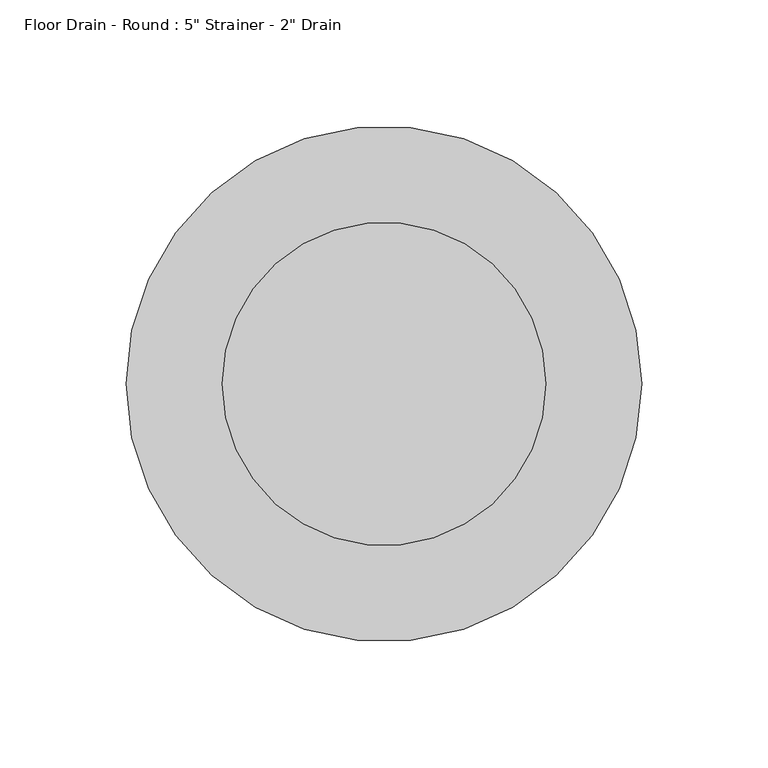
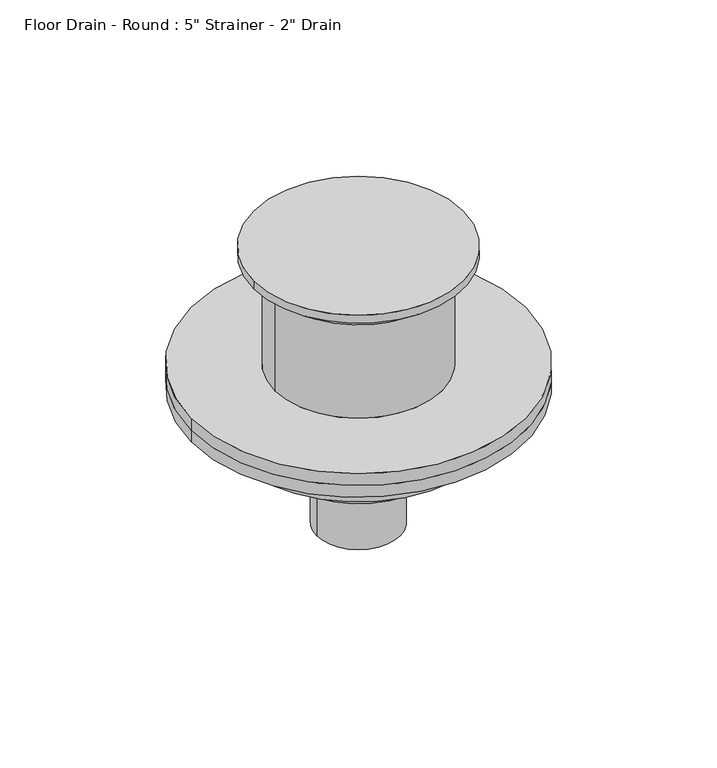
"""IFC4 building model written with IfcOpenShell, lengths in millimetres: flow terminal geometry."""

from ifc_helpers import new_model, si_unit, frame, origin, place, context, project, spatial, polyline, circle_curve, source, transform, mapped, element, save
from ifc_brep_helpers import plane_surface, cylinder_surface, revolved_surface, advanced_brep


def flow_terminal_214ebf25(model_context):
    return source(origin(), model_context, "Body", "AdvancedBrep", [
        advanced_brep(
        [(102.0, 0.0, -75.38), (-102.0, 0.0, -75.38), (-51.0, 0.0, -75.38), (51.0, 0.0, -75.38), (102.0, 0.0, -83.0), (-102.0, 0.0, -83.0), (51.0, 0.0, -15.24), (-51.0, 0.0, -15.24), (-64.0, 0.0, -5.08), (64.0, 0.0, -5.08), (64.0, 0.0, 0.0), (-64.0, 0.0, 0.0)],
        [
            (0, 1, circle_curve(frame((0.0, 0.0, -75.38), z_axis=(0.0, 0.0, 1.0), x_axis=(-1.0, 0.0, 0.0)), 102.0)),
            (1, 0, circle_curve(frame((0.0, 0.0, -75.38), z_axis=(0.0, 0.0, 1.0), x_axis=(-1.0, 0.0, 0.0)), 102.0)),
            (2, 3, circle_curve(frame((0.0, 0.0, -75.38), z_axis=(0.0, 0.0, -1.0), x_axis=(-1.0, 0.0, 0.0)), 51.0)),
            (3, 2, circle_curve(frame((0.0, 0.0, -75.38), z_axis=(0.0, 0.0, -1.0), x_axis=(-1.0, 0.0, 0.0)), 51.0)),
            (4, 5, circle_curve(frame((0.0, 0.0, -83.0), z_axis=(0.0, 0.0, -1.0), x_axis=(-1.0, 0.0, 0.0)), 102.0)),
            (5, 4, circle_curve(frame((0.0, 0.0, -83.0), z_axis=(0.0, 0.0, -1.0), x_axis=(-1.0, 0.0, 0.0)), 102.0)),
            (0, 4),
            (5, 1),
            (6, 3),
            (2, 7),
            (7, 6, circle_curve(frame((0.0, 0.0, -15.24), z_axis=(0.0, 0.0, -1.0), x_axis=(-1.0, 0.0, 0.0)), 51.0)),
            (6, 7, circle_curve(frame((0.0, 0.0, -15.24), z_axis=(0.0, 0.0, -1.0), x_axis=(-1.0, 0.0, 0.0)), 51.0)),
            (7, 8),
            (8, 9, circle_curve(frame((0.0, 0.0, -5.08), z_axis=(0.0, 0.0, -1.0), x_axis=(-1.0, 0.0, 0.0)), 64.0)),
            (9, 6),
            (9, 8, circle_curve(frame((0.0, 0.0, -5.08), z_axis=(0.0, 0.0, -1.0), x_axis=(-1.0, 0.0, 0.0)), 64.0)),
            (10, 11, circle_curve(frame((0.0, 0.0, 0.0), z_axis=(0.0, 0.0, 1.0), x_axis=(-1.0, 0.0, 0.0)), 64.0)),
            (11, 10, circle_curve(frame((0.0, 0.0, 0.0), z_axis=(0.0, 0.0, 1.0), x_axis=(-1.0, 0.0, 0.0)), 64.0)),
            (10, 9),
            (8, 11),
        ],
        [
            plane_surface(frame((-102.0, 0.0, -75.38), z_axis=(0.0, 0.0, 1.0), x_axis=(0.0, -1.0, 0.0))),
            plane_surface(frame((-102.0, 0.0, -83.0), z_axis=(0.0, 0.0, -1.0), x_axis=(0.0, 1.0, 0.0))),
            cylinder_surface(frame((0.0, 0.0, -83.0), z_axis=(0.0, 0.0, 1.0), x_axis=(-1.0, 0.0, 0.0)), 102.0),
            cylinder_surface(frame((0.0, 0.0, -75.38), z_axis=(0.0, 0.0, 1.0), x_axis=(-1.0, 0.0, 0.0)), 51.0),
            revolved_surface(polyline([(-64.0, 0.0, -5.08), (-51.0, 0.0, -15.24)]), (0.0, 0.0, 44.45), (0.0, 0.0, -1.0)),
            plane_surface(frame((-64.0, 0.0, 0.0), z_axis=(0.0, 0.0, 1.0), x_axis=(0.0, -1.0, 0.0))),
            cylinder_surface(frame((0.0, 0.0, -5.08), z_axis=(0.0, 0.0, 1.0), x_axis=(-1.0, 0.0, 0.0)), 64.0),
        ],
        [
            (0, [[1, 2], [3, 4]]),
            (1, [[5, 6]]),
            (2, [[-1, 7, -6, 8]]),
            (2, [[-2, -8, -5, -7]]),
            (3, [[9, -3, 10, 11]]),
            (3, [[-9, 12, -10, -4]]),
            (4, [[13, 14, 15, -11]]),
            (4, [[-13, -12, -15, 16]]),
            (5, [[17, 18]]),
            (6, [[-17, 19, -14, 20]]),
            (6, [[-18, -20, -16, -19]]),
        ],
    ),
        advanced_brep(
        [(25.4, 0.0, -178.0), (-25.4, 0.0, -178.0), (-25.4, 0.0, -130.5), (25.4, 0.0, -130.5), (50.9333333, 0.0, -130.5), (-50.9333333, 0.0, -130.5), (-50.9333333, 0.0, -111.5), (50.9333333, 0.0, -111.5), (76.4666667, 0.0, -111.5), (-76.4666667, 0.0, -111.5), (-76.4666667, 0.0, -90.62), (76.4666667, 0.0, -90.62), (102.0, 0.0, -83.0), (-102.0, 0.0, -83.0), (102.0, 0.0, -90.62), (-102.0, 0.0, -90.62)],
        [
            (0, 1, circle_curve(frame((0.0, 0.0, -178.0), z_axis=(0.0, 0.0, -1.0), x_axis=(-1.0, 0.0, 0.0)), 25.4)),
            (1, 0, circle_curve(frame((0.0, 0.0, -178.0), z_axis=(0.0, 0.0, -1.0), x_axis=(-1.0, 0.0, 0.0)), 25.4)),
            (1, 2),
            (2, 3, circle_curve(frame((0.0, 0.0, -130.5), z_axis=(0.0, 0.0, -1.0), x_axis=(-1.0, 0.0, 0.0)), 25.4)),
            (3, 0),
            (3, 2, circle_curve(frame((0.0, 0.0, -130.5), z_axis=(0.0, 0.0, -1.0), x_axis=(-1.0, 0.0, 0.0)), 25.4)),
            (4, 5, circle_curve(frame((0.0, 0.0, -130.5), z_axis=(0.0, 0.0, -1.0), x_axis=(-1.0, 0.0, 0.0)), 50.9333333)),
            (5, 4, circle_curve(frame((0.0, 0.0, -130.5), z_axis=(0.0, 0.0, -1.0), x_axis=(-1.0, 0.0, 0.0)), 50.9333333)),
            (5, 6),
            (6, 7, circle_curve(frame((0.0, 0.0, -111.5), z_axis=(0.0, 0.0, -1.0), x_axis=(-1.0, 0.0, 0.0)), 50.9333333)),
            (7, 4),
            (7, 6, circle_curve(frame((0.0, 0.0, -111.5), z_axis=(0.0, 0.0, -1.0), x_axis=(-1.0, 0.0, 0.0)), 50.9333333)),
            (8, 9, circle_curve(frame((0.0, 0.0, -111.5), z_axis=(0.0, 0.0, -1.0), x_axis=(-1.0, 0.0, 0.0)), 76.4666667)),
            (9, 8, circle_curve(frame((0.0, 0.0, -111.5), z_axis=(0.0, 0.0, -1.0), x_axis=(-1.0, 0.0, 0.0)), 76.4666667)),
            (9, 10),
            (10, 11, circle_curve(frame((0.0, 0.0, -90.62), z_axis=(0.0, 0.0, -1.0), x_axis=(-1.0, 0.0, 0.0)), 76.4666667)),
            (11, 8),
            (11, 10, circle_curve(frame((0.0, 0.0, -90.62), z_axis=(0.0, 0.0, -1.0), x_axis=(-1.0, 0.0, 0.0)), 76.4666667)),
            (12, 13, circle_curve(frame((0.0, 0.0, -83.0), z_axis=(0.0, 0.0, 1.0), x_axis=(-1.0, 0.0, 0.0)), 102.0)),
            (13, 12, circle_curve(frame((0.0, 0.0, -83.0), z_axis=(0.0, 0.0, 1.0), x_axis=(-1.0, 0.0, 0.0)), 102.0)),
            (14, 15, circle_curve(frame((0.0, 0.0, -90.62), z_axis=(0.0, 0.0, -1.0), x_axis=(-1.0, 0.0, 0.0)), 102.0)),
            (15, 14, circle_curve(frame((0.0, 0.0, -90.62), z_axis=(0.0, 0.0, -1.0), x_axis=(-1.0, 0.0, 0.0)), 102.0)),
            (12, 14),
            (15, 13),
        ],
        [
            plane_surface(frame((-25.4, 0.0, -178.0), z_axis=(0.0, 0.0, -1.0), x_axis=(0.0, 1.0, 0.0))),
            cylinder_surface(frame((0.0, 0.0, -178.0), z_axis=(0.0, 0.0, 1.0), x_axis=(-1.0, 0.0, 0.0)), 25.4),
            plane_surface(frame((-50.9333333, 0.0, -130.5), z_axis=(0.0, 0.0, -1.0), x_axis=(0.0, 1.0, 0.0))),
            cylinder_surface(frame((0.0, 0.0, -130.5), z_axis=(0.0, 0.0, 1.0), x_axis=(-1.0, 0.0, 0.0)), 50.9333333),
            plane_surface(frame((-76.4666667, 0.0, -111.5), z_axis=(0.0, 0.0, -1.0), x_axis=(0.0, 1.0, 0.0))),
            cylinder_surface(frame((0.0, 0.0, -111.5), z_axis=(0.0, 0.0, 1.0), x_axis=(-1.0, 0.0, 0.0)), 76.4666667),
            plane_surface(frame((-102.0, 0.0, -83.0), z_axis=(0.0, 0.0, 1.0), x_axis=(0.0, -1.0, 0.0))),
            plane_surface(frame((-102.0, 0.0, -90.62), z_axis=(0.0, 0.0, -1.0), x_axis=(0.0, 1.0, 0.0))),
            cylinder_surface(frame((0.0, 0.0, -90.62), z_axis=(0.0, 0.0, 1.0), x_axis=(-1.0, 0.0, 0.0)), 102.0),
        ],
        [
            (0, [[1, 2]]),
            (1, [[-2, 3, 4, 5]]),
            (1, [[-1, -5, 6, -3]]),
            (2, [[7, 8], [-4, -6]]),
            (3, [[-8, 9, 10, 11]]),
            (3, [[-7, -11, 12, -9]]),
            (4, [[13, 14], [-10, -12]]),
            (5, [[-14, 15, 16, 17]]),
            (5, [[-13, -17, 18, -15]]),
            (6, [[19, 20]]),
            (7, [[21, 22], [-16, -18]]),
            (8, [[-19, 23, -22, 24]]),
            (8, [[-20, -24, -21, -23]]),
        ],
    ),
    ])


if __name__ == "__main__":
    model = new_model("IFC4")
    model_context = context("Model", 3, world=origin())
    ifc_project = project(units=[si_unit("LENGTHUNIT", "METRE", prefix="MILLI")], contexts=[model_context])
    site = spatial("IfcSite", under=ifc_project)
    building = spatial("IfcBuilding", under=site)
    placement = place(None, origin())
    flow_terminal_shape = flow_terminal_214ebf25(model_context)
    element("IfcFlowTerminal", 1, ObjectType="Floor Drain - Round : 5\" Strainer - 2\" Drain", at=placement, inside=building, context=model_context, shape_type="MappedRepresentation", body=[
        mapped(flow_terminal_shape, transform((0.0, 0.0, 0.0), x_axis=(1.0, 0.0, 0.0), y_axis=(0.0, 1.0, 0.0), z_axis=(0.0, 0.0, 1.0))),
    ])
    save(model, "model.ifc")
